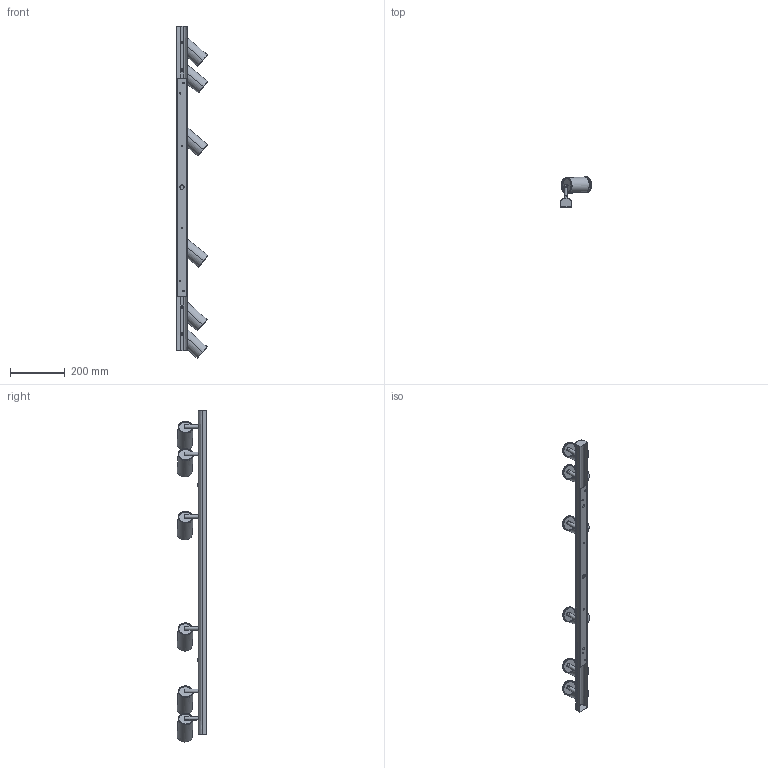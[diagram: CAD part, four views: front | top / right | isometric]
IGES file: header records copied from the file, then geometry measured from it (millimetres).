
Start section: SolidWorks IGES file using analytic representation for surfaces
Global section: file name: Z:\Modele 3D_WWW\_KOLEKCJE_WWW\EYE-SPOT\EYE-SPOT-6607-6608-6610-6611-8819\EYE-SPOT-6607-6608-6610-6611-8819.IGS; native system: SolidWorks 2020; preprocessor: SolidWorks 2020; author: gabriela.tworek; date: 210319.204931; units: millimetre
Bounding box: 115.93 x 109.01 x 1217.94 mm (x, y, z)
Surface area: 626836.2 mm2 (no closed solid volume)
Topology: 0 solids, 0 shells, 720 faces, 13966 edges, 13942 vertices
Faces by surface type: revolution 394, bspline 326
